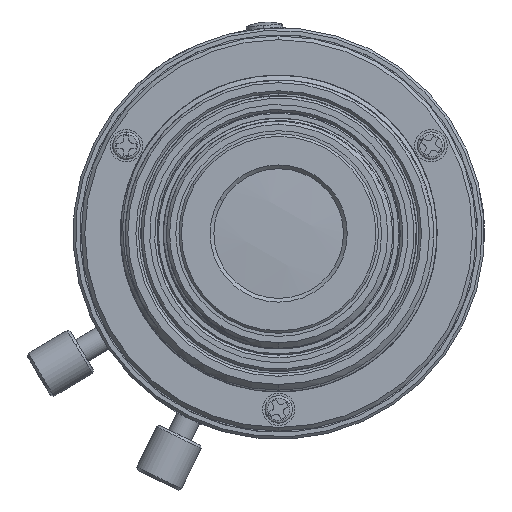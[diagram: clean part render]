
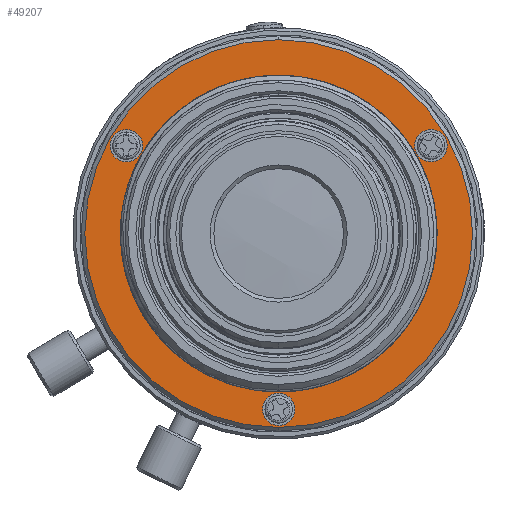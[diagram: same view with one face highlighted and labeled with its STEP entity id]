
A CAD part, front view. The second image highlights one B-rep face of the part: STEP entity #49207.
In plain terms, the highlighted planar face has unit normal (0, 1, 0).
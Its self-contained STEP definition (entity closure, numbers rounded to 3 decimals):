
#926 = VERTEX_POINT ( 'NONE', #70450 ) ;
#1604 = DIRECTION ( 'NONE',  ( 0., 0., 1. ) ) ;
#2601 = CARTESIAN_POINT ( 'NONE',  ( -12.211, -2.674, 5.75 ) ) ;
#6816 = ORIENTED_EDGE ( 'NONE', *, *, #60419, .F. ) ;
#6904 = CARTESIAN_POINT ( 'NONE',  ( 0., -2.674, -14.1 ) ) ;
#7038 = AXIS2_PLACEMENT_3D ( 'NONE', #65898, #65701, #65636 ) ;
#9744 = PLANE ( 'NONE',  #67993 ) ;
#10309 = AXIS2_PLACEMENT_3D ( 'NONE', #6904, #46604, #12695 ) ;
#11204 = AXIS2_PLACEMENT_3D ( 'NONE', #66824, #66768, #66744 ) ;
#11592 = ORIENTED_EDGE ( 'NONE', *, *, #48007, .F. ) ;
#11695 = CARTESIAN_POINT ( 'NONE',  ( 0., -2.674, 0. ) ) ;
#11912 = AXIS2_PLACEMENT_3D ( 'NONE', #20422, #20348, #20283 ) ;
#11999 = AXIS2_PLACEMENT_3D ( 'NONE', #12896, #12736, #12643 ) ;
#12643 = DIRECTION ( 'NONE',  ( 0., 0., -1. ) ) ;
#12695 = DIRECTION ( 'NONE',  ( 0., 0., -1. ) ) ;
#12736 = DIRECTION ( 'NONE',  ( 0., 1., 0. ) ) ;
#12896 = CARTESIAN_POINT ( 'NONE',  ( 12.211, -2.674, 7.05 ) ) ;
#13618 = ORIENTED_EDGE ( 'NONE', *, *, #42121, .F. ) ;
#14303 = FACE_BOUND ( 'NONE', #40644, .T. ) ;
#17398 = DIRECTION ( 'NONE',  ( 0., 0., -1. ) ) ;
#18976 = CARTESIAN_POINT ( 'NONE',  ( 0., -2.674, 12.1 ) ) ;
#19193 = ORIENTED_EDGE ( 'NONE', *, *, #66035, .F. ) ;
#20195 = CIRCLE ( 'NONE', #33737, 1.3 ) ;
#20283 = DIRECTION ( 'NONE',  ( 0., 0., 1. ) ) ;
#20348 = DIRECTION ( 'NONE',  ( 0., -1., 0. ) ) ;
#20422 = CARTESIAN_POINT ( 'NONE',  ( 0., -2.674, 0. ) ) ;
#22706 = CARTESIAN_POINT ( 'NONE',  ( 0., -2.674, -14.1 ) ) ;
#22856 = EDGE_CURVE ( 'NONE', #28334, #27845, #36272, .T. ) ;
#22995 = CIRCLE ( 'NONE', #30356, 12.1 ) ;
#23068 = CIRCLE ( 'NONE', #10309, 1.3 ) ;
#23932 = CIRCLE ( 'NONE', #71067, 12.1 ) ;
#24262 = CARTESIAN_POINT ( 'NONE',  ( 0., -2.674, -12.8 ) ) ;
#25844 = FACE_OUTER_BOUND ( 'NONE', #66652, .T. ) ;
#26935 = DIRECTION ( 'NONE',  ( 0., 0., -1. ) ) ;
#27030 = DIRECTION ( 'NONE',  ( 0., 1., 0. ) ) ;
#27093 = CARTESIAN_POINT ( 'NONE',  ( -12.211, -2.674, 7.05 ) ) ;
#27156 = CARTESIAN_POINT ( 'NONE',  ( 0., -2.674, 0. ) ) ;
#27751 = ORIENTED_EDGE ( 'NONE', *, *, #44534, .F. ) ;
#27845 = VERTEX_POINT ( 'NONE', #50505 ) ;
#28334 = VERTEX_POINT ( 'NONE', #38635 ) ;
#28429 = DIRECTION ( 'NONE',  ( 0., 0., -1. ) ) ;
#28454 = VERTEX_POINT ( 'NONE', #24262 ) ;
#28713 = CARTESIAN_POINT ( 'NONE',  ( 0., -2.674, 0. ) ) ;
#29943 = ORIENTED_EDGE ( 'NONE', *, *, #51683, .F. ) ;
#30228 = CARTESIAN_POINT ( 'NONE',  ( 0., -2.674, -15.4 ) ) ;
#30356 = AXIS2_PLACEMENT_3D ( 'NONE', #11695, #51283, #17398 ) ;
#32668 = ORIENTED_EDGE ( 'NONE', *, *, #56267, .F. ) ;
#32901 = DIRECTION ( 'NONE',  ( 0., 0., -1. ) ) ;
#33737 = AXIS2_PLACEMENT_3D ( 'NONE', #22706, #62254, #28429 ) ;
#34275 = AXIS2_PLACEMENT_3D ( 'NONE', #69457, #35724, #1604 ) ;
#34428 = DIRECTION ( 'NONE',  ( 0., 0., -1. ) ) ;
#34779 = EDGE_CURVE ( 'NONE', #68613, #56144, #56971, .T. ) ;
#35672 = CIRCLE ( 'NONE', #54287, 1.3 ) ;
#35724 = DIRECTION ( 'NONE',  ( 0., -1., 0. ) ) ;
#36272 = CIRCLE ( 'NONE', #11999, 1.3 ) ;
#36615 = CIRCLE ( 'NONE', #34275, 15.55 ) ;
#38635 = CARTESIAN_POINT ( 'NONE',  ( 12.211, -2.674, 8.35 ) ) ;
#39265 = VERTEX_POINT ( 'NONE', #42738 ) ;
#40644 = EDGE_LOOP ( 'NONE', ( #11592, #55374 ) ) ;
#40917 = FACE_BOUND ( 'NONE', #73397, .T. ) ;
#41726 = EDGE_LOOP ( 'NONE', ( #13618, #48294 ) ) ;
#42121 = EDGE_CURVE ( 'NONE', #27845, #28334, #51783, .T. ) ;
#42738 = CARTESIAN_POINT ( 'NONE',  ( 0., -2.674, -15.55 ) ) ;
#44534 = EDGE_CURVE ( 'NONE', #39265, #58530, #54331, .T. ) ;
#46210 = FACE_BOUND ( 'NONE', #41726, .T. ) ;
#46588 = EDGE_LOOP ( 'NONE', ( #29943, #32668 ) ) ;
#46604 = DIRECTION ( 'NONE',  ( 0., 1., 0. ) ) ;
#47907 = VERTEX_POINT ( 'NONE', #30228 ) ;
#48007 = EDGE_CURVE ( 'NONE', #56144, #68613, #35672, .T. ) ;
#48294 = ORIENTED_EDGE ( 'NONE', *, *, #22856, .F. ) ;
#49087 = VERTEX_POINT ( 'NONE', #18976 ) ;
#49207 = ADVANCED_FACE ( 'NONE', ( #14303, #46210, #55926, #40917, #25844 ), #9744, .F. ) ;
#50505 = CARTESIAN_POINT ( 'NONE',  ( 12.211, -2.674, 5.75 ) ) ;
#51283 = DIRECTION ( 'NONE',  ( 0., 1., 0. ) ) ;
#51683 = EDGE_CURVE ( 'NONE', #47907, #28454, #23068, .T. ) ;
#51783 = CIRCLE ( 'NONE', #7038, 1.3 ) ;
#53728 = EDGE_CURVE ( 'NONE', #49087, #926, #22995, .T. ) ;
#54287 = AXIS2_PLACEMENT_3D ( 'NONE', #27093, #27030, #26935 ) ;
#54331 = CIRCLE ( 'NONE', #11912, 15.55 ) ;
#55374 = ORIENTED_EDGE ( 'NONE', *, *, #34779, .F. ) ;
#55468 = CARTESIAN_POINT ( 'NONE',  ( -12.211, -2.674, 8.35 ) ) ;
#55926 = FACE_BOUND ( 'NONE', #46588, .T. ) ;
#56144 = VERTEX_POINT ( 'NONE', #2601 ) ;
#56267 = EDGE_CURVE ( 'NONE', #28454, #47907, #20195, .T. ) ;
#56971 = CIRCLE ( 'NONE', #11204, 1.3 ) ;
#57048 = ORIENTED_EDGE ( 'NONE', *, *, #53728, .F. ) ;
#58530 = VERTEX_POINT ( 'NONE', #63538 ) ;
#60419 = EDGE_CURVE ( 'NONE', #58530, #39265, #36615, .T. ) ;
#62254 = DIRECTION ( 'NONE',  ( 0., 1., 0. ) ) ;
#63538 = CARTESIAN_POINT ( 'NONE',  ( 0., -2.674, 15.55 ) ) ;
#65636 = DIRECTION ( 'NONE',  ( 0., 0., -1. ) ) ;
#65701 = DIRECTION ( 'NONE',  ( 0., 1., 0. ) ) ;
#65898 = CARTESIAN_POINT ( 'NONE',  ( 12.211, -2.674, 7.05 ) ) ;
#66035 = EDGE_CURVE ( 'NONE', #926, #49087, #23932, .T. ) ;
#66629 = DIRECTION ( 'NONE',  ( 0., -1., 0. ) ) ;
#66652 = EDGE_LOOP ( 'NONE', ( #6816, #27751 ) ) ;
#66744 = DIRECTION ( 'NONE',  ( 0., 0., -1. ) ) ;
#66768 = DIRECTION ( 'NONE',  ( 0., 1., 0. ) ) ;
#66824 = CARTESIAN_POINT ( 'NONE',  ( -12.211, -2.674, 7.05 ) ) ;
#67993 = AXIS2_PLACEMENT_3D ( 'NONE', #27156, #66629, #32901 ) ;
#68141 = DIRECTION ( 'NONE',  ( 0., 1., 0. ) ) ;
#68613 = VERTEX_POINT ( 'NONE', #55468 ) ;
#69457 = CARTESIAN_POINT ( 'NONE',  ( 0., -2.674, 0. ) ) ;
#70450 = CARTESIAN_POINT ( 'NONE',  ( 0., -2.674, -12.1 ) ) ;
#71067 = AXIS2_PLACEMENT_3D ( 'NONE', #28713, #68141, #34428 ) ;
#73397 = EDGE_LOOP ( 'NONE', ( #19193, #57048 ) ) ;
